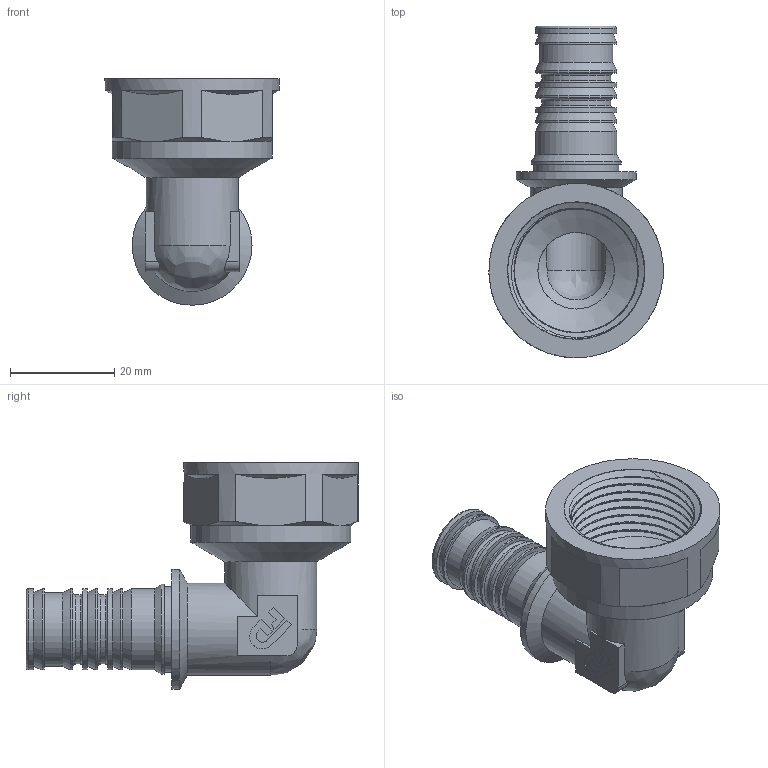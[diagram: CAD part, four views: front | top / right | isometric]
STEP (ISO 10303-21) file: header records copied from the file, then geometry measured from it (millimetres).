
FILE_DESCRIPTION(/* description */ (''),/* implementation_level */ '2;1');
FILE_NAME(/* name */ 'C:\Users\Doom\Desktop\Фадотех\Пресс\HDU14-1 15.01.2020\HDU14-1 15.01.2020.stp',/* time_stamp */ '2022-08-14T10:14:22+03:00',/* author */ ('Doom'),/* organization */ (''),/* preprocessor_version */ 'ST-DEVELOPER v18',/* originating_system */ 'Autodesk Inventor 2020',/* authorisation */ '');
FILE_SCHEMA (('AUTOMOTIVE_DESIGN { 1 0 10303 214 3 1 1 }'));
Length unit declared in the file: millimetre
Products named in the file (1): HDU12-1 15.01.2020
Bounding box: 33.44 x 63.75 x 43.5 mm (x, y, z)
Volume: 11512.7 mm3; surface area: 13961.4 mm2
Topology: 2 solids, 2 shells, 151 faces, 437 edges, 304 vertices
Faces by surface type: plane 73, cylinder 33, cone 24, bspline 16, torus 5
Full cylindrical faces by diameter (mm): 11.5 x1, 13.292 x2, 14.092 x1, 14.7 x1, 15.592 x8, 16.392 x1, 17.292 x1, 17.7 x2, 23 x1, 23.71 x7, 26.4 x2, 30.7 x1, 33.5 x1
Entity records: 9849 total; most frequent: CARTESIAN_POINT 5916, ORIENTED_EDGE 870, DIRECTION 754, EDGE_CURVE 435, VERTEX_POINT 303, AXIS2_PLACEMENT_3D 282, LINE 190, VECTOR 190
